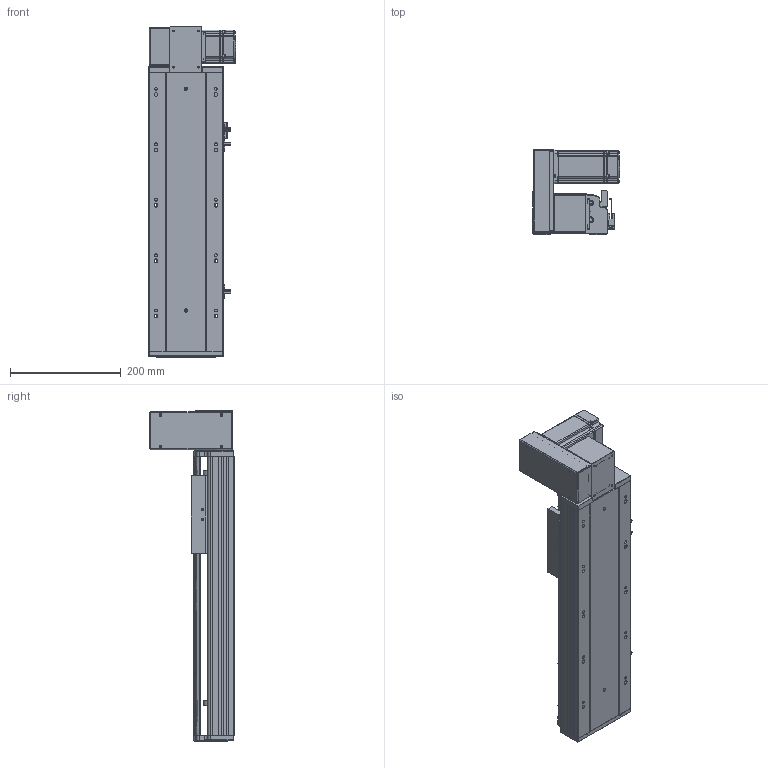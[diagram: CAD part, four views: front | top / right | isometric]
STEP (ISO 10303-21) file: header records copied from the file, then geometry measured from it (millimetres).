
FILE_DESCRIPTION (( 'STEP AP203' ), '1' );
FILE_NAME ('RY140-T-300-UL.SLDASM_250.step', '2021-03-01T07:42:51', ( '盈信电脑' ), ( '东莞市道滘镇水果街19号' ), 'SwSTEP 2.0', 'SolidWorks 2012', '' );
FILE_SCHEMA (( 'CONFIG_CONTROL_DESIGN' ));
Products named in the file (18): RY140-T-300-UL.SLDASM_250; RY140-T翋肮謫裔啣; RY120-T蹟翐M4; RY120-T主同步轮轴承压盖; 滅袉蝶18-10; RY140-T萇儂欶; RY140-T翋肮祭謫盓傅釱; 15; 侂狟400W侜督萇儂; RY140-T萇儂假蚾啣; RY120-T肮祭湍揤踡輸1; RY120-T肮祭湍揤踡輸2; RY120外置感应片(140共用）; 覜茼ん672; RY140綴裔啣; RY140肮祭謫臏賑輸; RY140-T-300-DL倰第奻裔啣_250; RY140-T-300-DL倰第菁釱_250
Assembly tree (23 placements, depth 3):
  RY140-T-300-UL.SLDASM_250
    RY140-T-300-DL倰第菁釱_250
    RY140肮祭謫臏賑輸
    RY140-T-300-DL倰第奻裔啣_250
    RY140綴裔啣
    覜茼ん672  x3
    RY120外置感应片(140共用）
    RY120-T肮祭湍揤踡輸2
    RY120-T肮祭湍揤踡輸1
    RY140-T翋肮祭謫盓傅釱
    RY140-T萇儂假蚾啣
    侂狟400W侜督萇儂
      15
    RY120-T主同步轮轴承压盖
    RY120-T蹟翐M4  x4
    RY140-T萇儂欶
    滅袉蝶18-10  x2
    RY140-T翋肮謫裔啣
Bounding box: 157 x 152.5 x 596 mm (x, y, z)
Volume: 2201932.2 mm3; surface area: 792151 mm2
Topology: 22 solids, 22 shells, 2535 faces, 6917 edges, 4468 vertices
Faces by surface type: plane 1381, cylinder 884, cone 170, bspline 100
Entity records: 80135 total; most frequent: CARTESIAN_POINT 19629, ORIENTED_EDGE 12418, DIRECTION 11753, EDGE_CURVE 6209, VERTEX_POINT 4067, LINE 4057, VECTOR 4057, AXIS2_PLACEMENT_3D 3848
